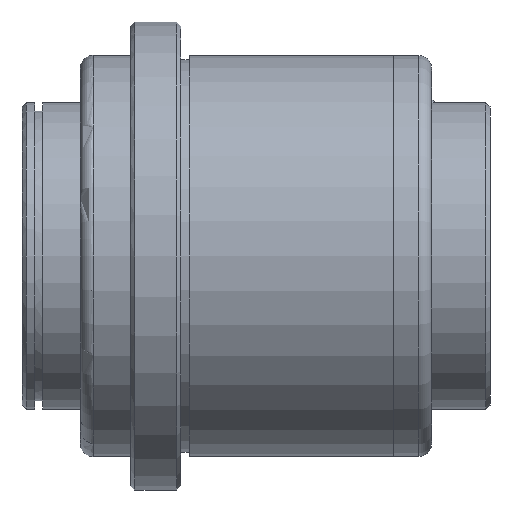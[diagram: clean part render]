
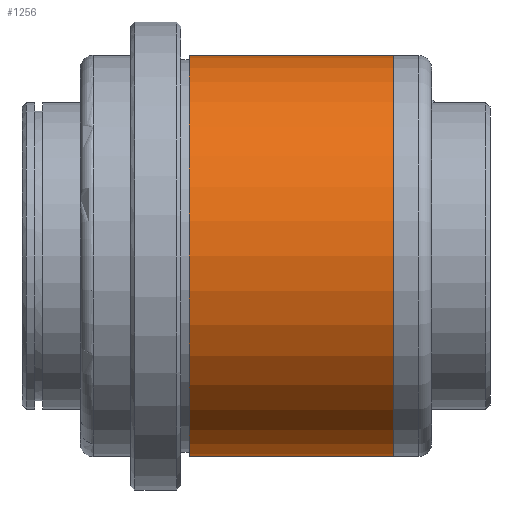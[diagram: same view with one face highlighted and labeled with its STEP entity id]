
A CAD part, front view. The second image highlights one B-rep face of the part: STEP entity #1256.
In plain terms, the highlighted cylindrical face has radius 24 mm (diameter 48 mm), a partial arc.
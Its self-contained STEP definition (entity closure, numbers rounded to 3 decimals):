
#1090=CARTESIAN_POINT('Vertex',(37.5,0.,24.)) ;
#1093=CARTESIAN_POINT('Axis2P3D Location',(37.5,0.,0.)) ;
#1097=CARTESIAN_POINT('Vertex',(37.5,-24.,0.)) ;
#1100=CARTESIAN_POINT('Axis2P3D Location',(37.5,0.,0.)) ;
#1104=CARTESIAN_POINT('Vertex',(37.5,0.,-24.)) ;
#1196=CARTESIAN_POINT('Line Origine',(42.,0.,24.)) ;
#1200=CARTESIAN_POINT('Vertex',(13.,0.,24.)) ;
#1203=CARTESIAN_POINT('Line Origine',(42.,0.,-24.)) ;
#1207=CARTESIAN_POINT('Vertex',(13.,0.,-24.)) ;
#1231=CARTESIAN_POINT('Axis2P3D Location',(42.,0.,0.)) ;
#1236=CARTESIAN_POINT('Axis2P3D Location',(13.,0.,0.)) ;
#1240=CARTESIAN_POINT('Vertex',(13.,-24.,0.)) ;
#1243=CARTESIAN_POINT('Axis2P3D Location',(13.,0.,0.)) ;
#1094=DIRECTION('Axis2P3D Direction',(1.,0.,-0.)) ;
#1101=DIRECTION('Axis2P3D Direction',(1.,0.,-0.)) ;
#1197=DIRECTION('Vector Direction',(-1.,0.,0.)) ;
#1204=DIRECTION('Vector Direction',(-1.,0.,0.)) ;
#1232=DIRECTION('Axis2P3D Direction',(-1.,-0.,-0.)) ;
#1233=DIRECTION('Axis2P3D XDirection',(0.,0.,-1.)) ;
#1237=DIRECTION('Axis2P3D Direction',(-1.,-0.,-0.)) ;
#1244=DIRECTION('Axis2P3D Direction',(-1.,-0.,-0.)) ;
#1095=AXIS2_PLACEMENT_3D('Circle Axis2P3D',#1093,#1094,$) ;
#1102=AXIS2_PLACEMENT_3D('Circle Axis2P3D',#1100,#1101,$) ;
#1234=AXIS2_PLACEMENT_3D('Cylinder Axis2P3D',#1231,#1232,#1233) ;
#1238=AXIS2_PLACEMENT_3D('Circle Axis2P3D',#1236,#1237,$) ;
#1245=AXIS2_PLACEMENT_3D('Circle Axis2P3D',#1243,#1244,$) ;
#1249=ORIENTED_EDGE('',*,*,#1209,.T.) ;
#1250=ORIENTED_EDGE('',*,*,#1106,.F.) ;
#1251=ORIENTED_EDGE('',*,*,#1099,.F.) ;
#1252=ORIENTED_EDGE('',*,*,#1202,.T.) ;
#1253=ORIENTED_EDGE('',*,*,#1242,.T.) ;
#1254=ORIENTED_EDGE('',*,*,#1247,.T.) ;
#1198=VECTOR('Line Direction',#1197,1.) ;
#1205=VECTOR('Line Direction',#1204,1.) ;
#1256=ADVANCED_FACE('732-30',(#1255),#1235,.T.) ;
#1096=CIRCLE('generated circle',#1095,24.) ;
#1103=CIRCLE('generated circle',#1102,24.) ;
#1239=CIRCLE('generated circle',#1238,24.) ;
#1246=CIRCLE('generated circle',#1245,24.) ;
#1235=CYLINDRICAL_SURFACE('generated cylinder',#1234,24.) ;
#1099=EDGE_CURVE('',#1091,#1098,#1096,.T.) ;
#1106=EDGE_CURVE('',#1098,#1105,#1103,.T.) ;
#1202=EDGE_CURVE('',#1091,#1201,#1199,.T.) ;
#1209=EDGE_CURVE('',#1208,#1105,#1206,.F.) ;
#1242=EDGE_CURVE('',#1201,#1241,#1239,.F.) ;
#1247=EDGE_CURVE('',#1241,#1208,#1246,.F.) ;
#1248=EDGE_LOOP('',(#1249,#1250,#1251,#1252,#1253,#1254)) ;
#1255=FACE_OUTER_BOUND('',#1248,.T.) ;
#1199=LINE('Line',#1196,#1198) ;
#1206=LINE('Line',#1203,#1205) ;
#1091=VERTEX_POINT('',#1090) ;
#1098=VERTEX_POINT('',#1097) ;
#1105=VERTEX_POINT('',#1104) ;
#1201=VERTEX_POINT('',#1200) ;
#1208=VERTEX_POINT('',#1207) ;
#1241=VERTEX_POINT('',#1240) ;
